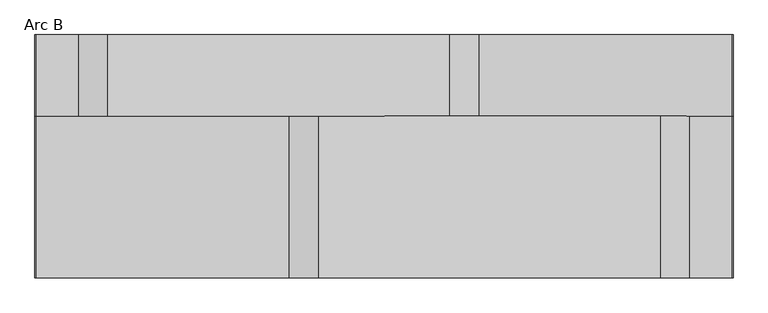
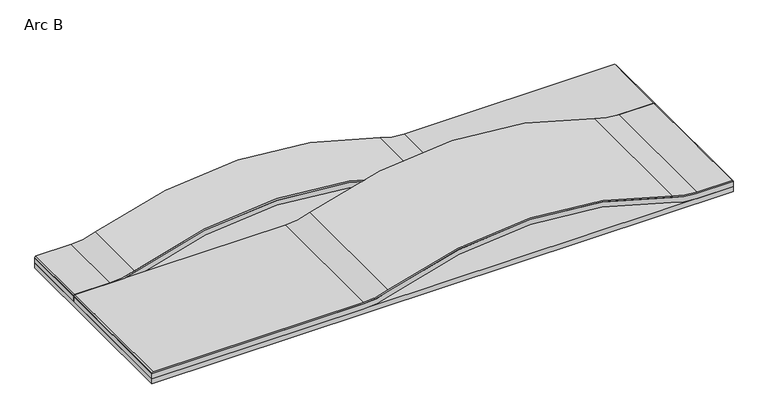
"""IFC4 building model written with IfcOpenShell, lengths in millimetres: proxy geometry, FilzFelt_Arc : Arc B."""

from ifc_helpers import new_model, si_unit, point, frame, frame_2d, origin, origin_with_axes, place, context, project, spatial, polyline, circle_curve, trimmed, segment, composite_curve, outline, extrude, source, transform, mapped, element, save


def arc_b_c4def8db(model_context):
    return source(origin(), model_context, "Body", "SweptSolid", [
        extrude(outline(composite_curve([segment(trimmed(circle_curve(frame_2d((-667.2995118, -165.1)), 748.3255118), [point((31.4189275, 102.8246428))], [point((31.4189275, -433.0246428))], False, "CARTESIAN"), True, "CONTINUOUS"), segment(trimmed(circle_curve(frame_2d((150.0, -478.4947345)), 127.0), [point((31.4189275, -433.0246428))], [point((23.0, -478.4947345))], True, "CARTESIAN"), True, "CONTINUOUS"), segment(polyline([(23.0, -478.4947345), (23.0, -544.1), (21.0, -546.1), (19.952, -546.1), (19.952, -477.9298789)]), True, "CONTINUOUS"), segment(trimmed(circle_curve(frame_2d((146.952, -477.9298789)), 127.0), [point((19.952, -477.9298789))], [point((28.4003457, -432.3831417))], False, "CARTESIAN"), True, "CONTINUOUS"), segment(trimmed(circle_curve(frame_2d((-667.2995118, -165.1)), 745.2775118), [point((28.4003457, -432.3831417))], [point((28.4003457, 102.1831417))], True, "CARTESIAN"), True, "CONTINUOUS"), segment(trimmed(circle_curve(frame_2d((146.952, 147.7298789)), 127.0), [point((28.4003457, 102.1831417))], [point((19.952, 147.7298789))], False, "CARTESIAN"), True, "CONTINUOUS"), segment(polyline([(19.952, 147.7298789), (19.952, 546.1), (21.0, 546.1), (23.0, 544.1), (23.0, 148.2947345)]), True, "CONTINUOUS"), segment(trimmed(circle_curve(frame_2d((150.0, 148.2947345)), 127.0), [point((23.0, 148.2947345))], [point((31.4189275, 102.8246428))], True, "CARTESIAN"), True, "CONTINUOUS")], self_intersect=False)), frame((0.0, 63.5, 0.0), z_axis=(0.0, 1.0, 0.0), x_axis=(0.0, 0.0, 1.0)), (0.0, 0.0, 1.0), 127.0),
        extrude(outline(composite_curve([segment(trimmed(circle_curve(frame_2d((147.0, 477.8049131)), 136.906), [point((19.193783, 428.725144))], [point((10.094, 477.8049131))], False, "CARTESIAN"), True, "CONTINUOUS"), segment(polyline([(10.094, 477.8049131), (10.094, 546.1), (19.952, 546.1), (19.952, 477.9298789)]), True, "CONTINUOUS"), segment(trimmed(circle_curve(frame_2d((146.952, 477.9298789)), 127.0), [point((19.952, 477.9298789))], [point((28.4003457, 432.3831417))], True, "CARTESIAN"), True, "CONTINUOUS"), segment(trimmed(circle_curve(frame_2d((-667.2995118, 165.1)), 745.2775118), [point((28.4003457, 432.3831417))], [point((28.4003457, -102.1831417))], False, "CARTESIAN"), True, "CONTINUOUS"), segment(trimmed(circle_curve(frame_2d((146.952, -147.7298789)), 127.0), [point((28.4003457, -102.1831417))], [point((19.952, -147.7298789))], True, "CARTESIAN"), True, "CONTINUOUS"), segment(polyline([(19.952, -147.7298789), (19.952, -546.1), (10.046, -546.1), (10.046, -147.7298789)]), True, "CONTINUOUS"), segment(trimmed(circle_curve(frame_2d((146.952, -147.7298789)), 136.906), [point((10.046, -147.7298789))], [point((19.1533167, -98.6304962))], False, "CARTESIAN"), True, "CONTINUOUS"), segment(trimmed(circle_curve(frame_2d((-667.2995118, 165.1)), 735.3715118), [point((19.1533167, -98.6304962))], [point((19.193783, 428.725144))], True, "CARTESIAN"), True, "CONTINUOUS")], self_intersect=False)), frame((0.0, -190.5, 0.0), z_axis=(0.0, 1.0, 0.0), x_axis=(0.0, 0.0, 1.0)), (0.0, 0.0, 1.0), 254.0),
        extrude(outline(composite_curve([segment(trimmed(circle_curve(frame_2d((150.0, -148.2947345)), 127.0), [point((31.4189275, -102.8246428))], [point((23.0, -148.2947345))], True, "CARTESIAN"), True, "CONTINUOUS"), segment(polyline([(23.0, -148.2947345), (23.0, -544.1), (21.0, -546.1), (19.952, -546.1), (19.952, -147.7298789)]), True, "CONTINUOUS"), segment(trimmed(circle_curve(frame_2d((146.952, -147.7298789)), 127.0), [point((19.952, -147.7298789))], [point((28.4003457, -102.1831417))], False, "CARTESIAN"), True, "CONTINUOUS"), segment(trimmed(circle_curve(frame_2d((-667.2995118, 165.1)), 745.2775118), [point((28.4003457, -102.1831417))], [point((28.4003457, 432.3831417))], True, "CARTESIAN"), True, "CONTINUOUS"), segment(trimmed(circle_curve(frame_2d((146.952, 477.9298789)), 127.0), [point((28.4003457, 432.3831417))], [point((19.952, 477.9298789))], False, "CARTESIAN"), True, "CONTINUOUS"), segment(polyline([(19.952, 477.9298789), (19.952, 546.1), (21.0, 546.1), (23.0, 544.1), (23.0, 478.4947345)]), True, "CONTINUOUS"), segment(trimmed(circle_curve(frame_2d((150.0, 478.4947345)), 127.0), [point((23.0, 478.4947345))], [point((31.4189275, 433.0246428))], True, "CARTESIAN"), True, "CONTINUOUS"), segment(trimmed(circle_curve(frame_2d((-667.2995118, 165.1)), 748.3255118), [point((31.4189275, 433.0246428))], [point((31.4189275, -102.8246428))], False, "CARTESIAN"), True, "CONTINUOUS")], self_intersect=False)), frame((0.0, -190.5, 0.0), z_axis=(0.0, 1.0, 0.0), x_axis=(0.0, 0.0, 1.0)), (0.0, 0.0, 1.0), 254.0),
        extrude(outline(composite_curve([segment(trimmed(circle_curve(frame_2d((-667.2995118, -165.1)), 735.3715118), [point((19.193783, -428.725144))], [point((19.1533167, 98.6304962))], True, "CARTESIAN"), True, "CONTINUOUS"), segment(trimmed(circle_curve(frame_2d((146.952, 147.7298789)), 136.906), [point((19.1533167, 98.6304962))], [point((10.046, 147.7298789))], False, "CARTESIAN"), True, "CONTINUOUS"), segment(polyline([(10.046, 147.7298789), (10.046, 546.1), (19.952, 546.1), (19.952, 147.7298789)]), True, "CONTINUOUS"), segment(trimmed(circle_curve(frame_2d((146.952, 147.7298789)), 127.0), [point((19.952, 147.7298789))], [point((28.4003457, 102.1831417))], True, "CARTESIAN"), True, "CONTINUOUS"), segment(trimmed(circle_curve(frame_2d((-667.2995118, -165.1)), 745.2775118), [point((28.4003457, 102.1831417))], [point((28.4003457, -432.3831417))], False, "CARTESIAN"), True, "CONTINUOUS"), segment(trimmed(circle_curve(frame_2d((146.952, -477.9298789)), 127.0), [point((28.4003457, -432.3831417))], [point((19.952, -477.9298789))], True, "CARTESIAN"), True, "CONTINUOUS"), segment(polyline([(19.952, -477.9298789), (19.952, -546.1), (10.094, -546.1), (10.094, -477.8049131)]), True, "CONTINUOUS"), segment(trimmed(circle_curve(frame_2d((147.0, -477.8049131)), 136.906), [point((10.094, -477.8049131))], [point((19.193783, -428.725144))], False, "CARTESIAN"), True, "CONTINUOUS")], self_intersect=False)), frame((0.0, 63.5, 0.0), z_axis=(0.0, 1.0, 0.0), x_axis=(0.0, 0.0, 1.0)), (0.0, 0.0, 1.0), 127.0),
        extrude(outline(polyline([(546.1, -190.5), (-546.1, -190.5), (-546.1, 190.5), (546.1, 190.5), (546.1, -190.5)])), origin_with_axes(), (0.0, 0.0, 1.0), 10.0),
    ])


if __name__ == "__main__":
    model = new_model("IFC4")
    model_context = context("Model", 3, world=origin())
    ifc_project = project(units=[si_unit("LENGTHUNIT", "METRE", prefix="MILLI")], contexts=[model_context])
    site = spatial("IfcSite", under=ifc_project)
    building = spatial("IfcBuilding", under=site)
    placement = place(None, origin())
    arc_b_shape = arc_b_c4def8db(model_context)
    element("IfcBuildingElementProxy", 1, Name="FilzFelt_Arc : Arc B", ObjectType="FilzFelt_Arc : Arc B", at=placement, inside=building, context=model_context, shape_type="MappedRepresentation", body=[
        mapped(arc_b_shape, transform((0.0, 0.0, 0.0), x_axis=(1.0, 0.0, 0.0), y_axis=(0.0, 1.0, 0.0), z_axis=(0.0, 0.0, 1.0))),
    ])
    save(model, "model.ifc")
